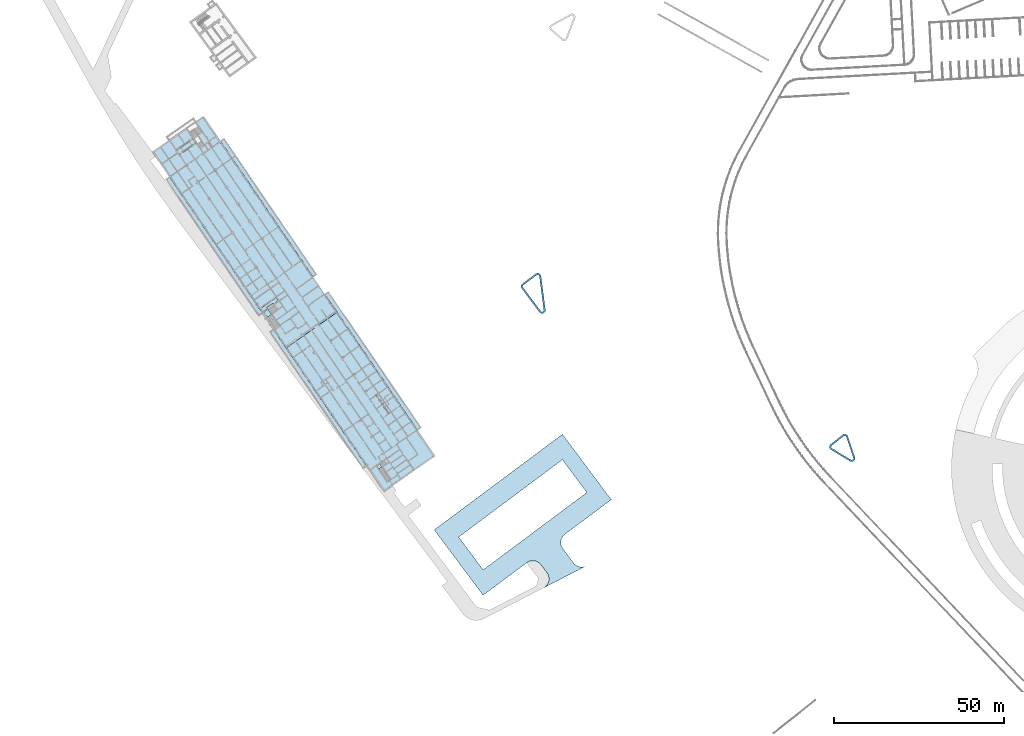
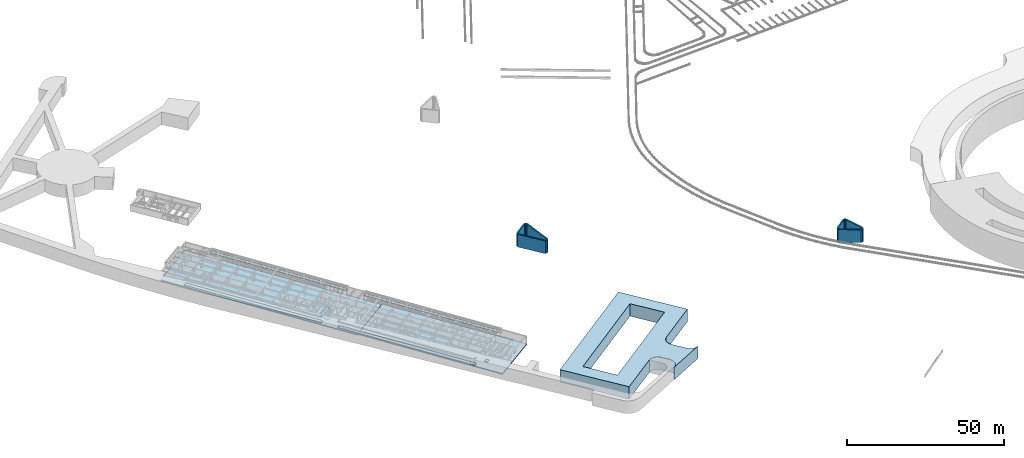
# One storey, part 10 of 112: 12 slabs, 2 elements without a shape of their own.
"""IFC2X3 building model written with IfcOpenShell, lengths in millimetres."""

from ifc_helpers import new_model, entity, si_unit, converted_unit, derived_unit, direction, frame, frame_2d, origin, place, context, subcontext, project, spatial, polyline, circle_curve, parameter, trimmed, segment, composite_curve, outline, extrude, material, layer, layer_set, layer_usage, type_object, element, aggregate, save


model = new_model("IFC2X3")

# Units and contexts
model_context = context("Model", 3, precision=0.01, world=origin(), true_north=direction((6.123031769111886e-17, 1.0)))
body_context = subcontext(model_context, "Body", "Model", "MODEL_VIEW")
ifc_project = project(units=[si_unit("LENGTHUNIT", "METRE", prefix="MILLI"), si_unit("AREAUNIT", "SQUARE_METRE"), si_unit("VOLUMEUNIT", "CUBIC_METRE"), converted_unit("PLANEANGLEUNIT", "DEGREE", entity("IfcRatioMeasure", 0.017453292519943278), si_unit("PLANEANGLEUNIT", "RADIAN"), dimensions=[0, 0, 0, 0, 0, 0, 0]), si_unit("MASSUNIT", "GRAM", prefix="KILO"), derived_unit("MASSDENSITYUNIT", [(si_unit("MASSUNIT", "GRAM", prefix="KILO"), 1), (si_unit("LENGTHUNIT", "METRE"), -3)]), derived_unit("MOMENTOFINERTIAUNIT", [(si_unit("LENGTHUNIT", "METRE"), 4)]), si_unit("TIMEUNIT", "SECOND"), si_unit("FREQUENCYUNIT", "HERTZ"), si_unit("THERMODYNAMICTEMPERATUREUNIT", "DEGREE_CELSIUS"), derived_unit("THERMALTRANSMITTANCEUNIT", [(si_unit("MASSUNIT", "GRAM", prefix="KILO"), 1), (si_unit("THERMODYNAMICTEMPERATUREUNIT", "KELVIN"), -1), (si_unit("TIMEUNIT", "SECOND"), -3)]), derived_unit("THERMALCONDUCTANCEUNIT", [(si_unit("MASSUNIT", "GRAM", prefix="KILO"), 1), (si_unit("LENGTHUNIT", "METRE"), 1), (si_unit("THERMODYNAMICTEMPERATUREUNIT", "KELVIN"), -1), (si_unit("TIMEUNIT", "SECOND"), -3)]), derived_unit("VOLUMETRICFLOWRATEUNIT", [(si_unit("LENGTHUNIT", "METRE"), 3), (si_unit("TIMEUNIT", "SECOND"), -1)]), derived_unit("MASSFLOWRATEUNIT", [(si_unit("MASSUNIT", "GRAM", prefix="KILO"), 1), (si_unit("TIMEUNIT", "SECOND"), -1)]), derived_unit("ROTATIONALFREQUENCYUNIT", [(si_unit("TIMEUNIT", "SECOND"), -1)]), si_unit("ELECTRICCURRENTUNIT", "AMPERE"), si_unit("ELECTRICVOLTAGEUNIT", "VOLT"), si_unit("POWERUNIT", "WATT"), converted_unit("FORCEUNIT", "KIP", entity("IfcRatioMeasure", 2.088543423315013e-05), si_unit("FORCEUNIT", "NEWTON"), dimensions=[1, 1, -2, 0, 0, 0, 0]), si_unit("ILLUMINANCEUNIT", "LUX"), si_unit("LUMINOUSFLUXUNIT", "LUMEN"), si_unit("LUMINOUSINTENSITYUNIT", "CANDELA"), derived_unit("USERDEFINED", [(si_unit("MASSUNIT", "GRAM", prefix="KILO"), -1), (si_unit("LENGTHUNIT", "METRE"), -2), (si_unit("TIMEUNIT", "SECOND"), 3), (si_unit("LUMINOUSFLUXUNIT", "LUMEN"), 1)]), derived_unit("USERDEFINED", [(si_unit("MASSUNIT", "GRAM", prefix="KILO"), 1), (si_unit("LENGTHUNIT", "METRE"), 3), (si_unit("TIMEUNIT", "SECOND"), -3), (si_unit("ELECTRICCURRENTUNIT", "AMPERE"), -2)]), derived_unit("USERDEFINED", [(si_unit("LENGTHUNIT", "METRE"), 2), (si_unit("TIMEUNIT", "SECOND"), -2)]), derived_unit("SOUNDPOWERUNIT", [(si_unit("MASSUNIT", "GRAM", prefix="KILO"), 1), (si_unit("LENGTHUNIT", "METRE"), 2), (si_unit("TIMEUNIT", "SECOND"), -3)]), derived_unit("SOUNDPRESSUREUNIT", [(si_unit("MASSUNIT", "GRAM", prefix="KILO"), 1), (si_unit("LENGTHUNIT", "METRE"), -1), (si_unit("TIMEUNIT", "SECOND"), -2)]), derived_unit("LINEARVELOCITYUNIT", [(si_unit("LENGTHUNIT", "METRE"), 1), (si_unit("TIMEUNIT", "SECOND"), -1)]), si_unit("PRESSUREUNIT", "PASCAL"), derived_unit("USERDEFINED", [(si_unit("LENGTHUNIT", "METRE"), -2), (si_unit("MASSUNIT", "GRAM", prefix="KILO"), 1), (si_unit("TIMEUNIT", "SECOND"), -2)]), derived_unit("LINEARFORCEUNIT", [(si_unit("MASSUNIT", "GRAM", prefix="KILO"), 1), (si_unit("LENGTHUNIT", "METRE"), 1), (si_unit("TIMEUNIT", "SECOND"), -2), (si_unit("LENGTHUNIT", "METRE"), -1)]), derived_unit("PLANARFORCEUNIT", [(si_unit("MASSUNIT", "GRAM", prefix="KILO"), 1), (si_unit("LENGTHUNIT", "METRE"), 1), (si_unit("TIMEUNIT", "SECOND"), -2), (si_unit("LENGTHUNIT", "METRE"), -2)]), derived_unit("SPECIFICHEATCAPACITYUNIT", [(si_unit("LENGTHUNIT", "METRE"), 2), (si_unit("TIMEUNIT", "SECOND"), -2), (si_unit("THERMODYNAMICTEMPERATUREUNIT", "KELVIN"), -1)]), derived_unit("VAPORPERMEABILITYUNIT", [(si_unit("TIMEUNIT", "SECOND"), 1), (si_unit("LENGTHUNIT", "METRE"), -1)]), derived_unit("DYNAMICVISCOSITYUNIT", [(si_unit("MASSUNIT", "GRAM", prefix="KILO"), 1), (si_unit("LENGTHUNIT", "METRE"), -1), (si_unit("TIMEUNIT", "SECOND"), -1)]), derived_unit("THERMALEXPANSIONCOEFFICIENTUNIT", [(si_unit("THERMODYNAMICTEMPERATUREUNIT", "KELVIN"), -1)])], contexts=[model_context])

# Site, building, storey
site_placement = place(None, frame((0.0, 0.0, 0.0), z_axis=(0.0, 0.0, 1.0), x_axis=(0.8191520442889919, 0.5735764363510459, 0.0)))
site = spatial("IfcSite", under=ifc_project, at=site_placement, Name="Default", CompositionType="ELEMENT")
building_placement = place(site_placement, origin())
building = spatial("IfcBuilding", under=site, at=building_placement, CompositionType="ELEMENT")
storey_placement = place(building_placement, frame((0.0, 0.0, -3600.0)))
storey = spatial("IfcBuildingStorey", under=building, at=storey_placement, Name="0.UG -3.60", CompositionType="ELEMENT", Elevation=-3600.0000000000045)

# Slabs
ifc_material_1 = material(Name="road_asfalt")
slab_type_1 = type_object("IfcSlabType", Name="Slab-169", PredefinedType="FLOOR", material=ifc_material_1)
slab_1_placement = place(storey_placement, origin())
element("IfcSlab", 1, at=slab_1_placement, inside=storey, type_object=slab_type_1, Name="Slab-169:Slab-169", ObjectType="Slab-169:Slab-169", PredefinedType="FLOOR", context=body_context, shape_type="SweptSolid", body=[
    extrude(outline(composite_curve([segment(polyline([(-23349.96454791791, -23085.034765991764), (650.0354520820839, -23085.034765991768)]), True, "CONTINUOUS"), segment(polyline([(650.0354520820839, -23085.034765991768), (650.0354962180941, -7085.029446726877)]), True, "CONTINUOUS"), segment(trimmed(circle_curve(frame_2d((3650.0355186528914, -7085.029455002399), x_axis=(-1.0, 7.741618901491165e-09)), 3000.000022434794), [parameter(269.9999997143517)], [parameter(2.856497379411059e-07)], True, "PARAMETER"), False, "CONTINUOUS"), segment(polyline([(3650.035556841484, -4085.029432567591), (6561.595889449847, -4085.0294696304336)]), True, "CONTINUOUS"), segment(trimmed(circle_curve(frame_2d((6561.595851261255, -7085.0294696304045), x_axis=(1.2732925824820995e-08, 1.0)), 2999.999999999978), [parameter(260.60300781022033)], [parameter(1.1704441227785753e-12)], True, "PARAMETER"), False, "CONTINUOUS"), segment(polyline([(9521.338047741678, -7574.852019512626), (11838.268116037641, 6425.1479622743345)]), True, "CONTINUOUS"), segment(trimmed(circle_curve(frame_2d((8876.919858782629, 6916.864213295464), x_axis=(0.9864932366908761, -0.163801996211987)), 3001.894130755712), [parameter(279.45830056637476)], [parameter(1.9846661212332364e-12)], True, "PARAMETER"), False, "CONTINUOUS"), segment(polyline([(8878.525885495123, 3914.970512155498), (3650.037734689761, 3914.9705715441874)]), True, "CONTINUOUS"), segment(trimmed(circle_curve(frame_2d((3650.0377687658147, 6914.975098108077), x_axis=(-7.559974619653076e-07, -1.0)), 3000.0045265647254), [parameter(270.00007599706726)], [parameter(4.266483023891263e-05)], True, "PARAMETER"), False, "CONTINUOUS"), segment(polyline([(650.0332422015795, 6914.973386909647), (650.0235454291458, 23914.97595161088)]), True, "CONTINUOUS"), segment(polyline([(650.0235454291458, 23914.97595161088), (-23349.964418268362, 23914.97151592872)]), True, "CONTINUOUS"), segment(polyline([(-23349.964418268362, 23914.97151592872), (-23349.96454791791, -23085.034765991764)]), True, "CONTINUOUS")], self_intersect=False), holes=[polyline([(-17349.97455679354, 19414.97262484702), (-5349.974556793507, 19414.97574793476), (-5349.964667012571, -18585.036327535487), (-17349.964667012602, -18585.039450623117), (-17349.97455679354, 19414.97262484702)])]), frame((-194450.25213973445, 11827.478182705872, -1400.0), z_axis=(0.0, 0.0, 1.0), x_axis=(0.029878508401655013, -0.999553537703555, 0.0)), (0.0, 0.0, 1.0), 4850.0),
])
ifc_material_2 = material(Name="_granite_06 elementi novi")
slab_type_2 = type_object("IfcSlabType", Name="Slab-180", PredefinedType="FLOOR", material=ifc_material_2)
slab_2_placement = place(storey_placement, origin())
element("IfcSlab", 2, at=slab_2_placement, inside=storey, type_object=slab_type_2, Name="Slab-180:Slab-180", ObjectType="Slab-180:Slab-180", PredefinedType="FLOOR", context=body_context, shape_type="SweptSolid", body=[
    extrude(outline(composite_curve([segment(polyline([(-2210.4617921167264, -2917.3169458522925), (2232.1375624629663, -2917.316945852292)]), True, "CONTINUOUS"), segment(trimmed(circle_curve(frame_2d((2232.137562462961, -1917.3169458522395), x_axis=(0.0, -1.0)), 1000.0000000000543), [parameter(359.99999999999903)], [parameter(110.36391893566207)], True, "PARAMETER"), True, "CONTINUOUS"), segment(polyline([(3169.6388735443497, -1569.3352053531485), (918.7818012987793, 4494.722791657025)]), True, "CONTINUOUS"), segment(trimmed(circle_curve(frame_2d((-18.7195097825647, 4146.7410511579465), x_axis=(0.9375013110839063, 0.34798174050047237)), 1000.0000000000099), [parameter(359.9999999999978)], [parameter(139.7646231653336)], True, "PARAMETER"), True, "CONTINUOUS"), segment(polyline([(-959.1770814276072, 4486.652151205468), (-3150.919363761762, -1577.4058458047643)]), True, "CONTINUOUS"), segment(trimmed(circle_curve(frame_2d((-2210.4617921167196, -1917.3169458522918), x_axis=(-0.94045757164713, 0.3399111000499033)), 999.9999999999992), [parameter(359.99999999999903)], [parameter(109.87145789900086)], True, "PARAMETER"), True, "CONTINUOUS")], self_intersect=False), holes=[composite_curve([segment(trimmed(circle_curve(frame_2d((-18.719509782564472, 4146.74105115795), x_axis=(-0.94045757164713, 0.3399111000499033)), 499.99999999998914), [parameter(220.23537683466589)], [parameter(1.8828883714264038e-12)], True, "PARAMETER"), False, "CONTINUOUS"), segment(polyline([(450.0311457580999, 4320.731921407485), (2700.8882180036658, -1743.3260756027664)]), True, "CONTINUOUS"), segment(trimmed(circle_curve(frame_2d((2232.137562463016, -1917.316945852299), x_axis=(0.9375013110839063, 0.34798174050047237)), 499.99999999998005), [parameter(249.63608106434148)], [parameter(4.2237766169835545e-12)], True, "PARAMETER"), False, "CONTINUOUS"), segment(polyline([(2232.137562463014, -2417.316945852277), (-2210.4617921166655, -2417.316945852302)]), True, "CONTINUOUS"), segment(trimmed(circle_curve(frame_2d((-2210.461792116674, -1917.316945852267), x_axis=(0.0, -1.0)), 500.00000000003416), [parameter(250.1285421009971)], [parameter(359.999999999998)], True, "PARAMETER"), False, "CONTINUOUS"), segment(polyline([(-2680.690577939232, -1747.3613958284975), (-488.94829560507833, 4316.696601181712)]), True, "CONTINUOUS")], self_intersect=False)]), frame((-105953.00500466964, -14512.05469941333, -2100.0), z_axis=(0.0, 0.0, 1.0), x_axis=(-0.9981938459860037, -0.06007533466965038, 0.0)), (0.0, 0.0, 1.0), 4949.999999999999),
])
slab_type_3 = type_object("IfcSlabType", Name="Slab-180", PredefinedType="FLOOR", material=ifc_material_2)
slab_3_placement = place(storey_placement, origin())
element("IfcSlab", 3, at=slab_3_placement, inside=storey, type_object=slab_type_3, Name="Slab-180 237997:Slab-180 237997", ObjectType="Slab-180 237997:Slab-180 237997", PredefinedType="FLOOR", context=body_context, shape_type="SweptSolid", body=[
    extrude(outline(composite_curve([segment(polyline([(-2723.695075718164, -2578.5108920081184), (5958.715789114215, -2578.5108920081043)]), True, "CONTINUOUS"), segment(trimmed(circle_curve(frame_2d((5958.7157891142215, -1578.5108920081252), x_axis=(0.0, -1.0)), 999.9999999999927), [parameter(359.99999999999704)], [parameter(150.7465714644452)], True, "PARAMETER"), True, "CONTINUOUS"), segment(polyline([(6447.389239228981, -706.0441252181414), (-2235.020713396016, 4157.021596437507)]), True, "CONTINUOUS"), segment(trimmed(circle_curve(frame_2d((-2723.694163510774, 3284.554829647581), x_axis=(0.488673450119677, 0.8724667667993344)), 999.9999999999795), [parameter(2.239110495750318e-12)], [parameter(119.253417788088)], True, "PARAMETER"), True, "CONTINUOUS"), segment(polyline([(-3723.6941635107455, 3284.5550172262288), (-3723.6950757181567, -1578.5107044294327)]), True, "CONTINUOUS"), segment(trimmed(circle_curve(frame_2d((-2723.695075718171, -1578.5108920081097), x_axis=(-1.0, 1.8760329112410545e-07)), 1000.0000000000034), [parameter(359.99999999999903)], [parameter(90.00001074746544)], True, "PARAMETER"), True, "CONTINUOUS")], self_intersect=False), holes=[composite_curve([segment(trimmed(circle_curve(frame_2d((-2723.694163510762, 3284.554829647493), x_axis=(-1.0, 1.8760329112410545e-07)), 499.9999999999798), [parameter(240.74658221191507)], [parameter(0.0)], True, "PARAMETER"), False, "CONTINUOUS"), segment(polyline([(-2479.35743845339, 3720.788213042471), (6203.052514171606, -1142.2775086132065)]), True, "CONTINUOUS"), segment(trimmed(circle_curve(frame_2d((5958.7157891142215, -1578.5108920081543), x_axis=(0.488673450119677, 0.8724667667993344)), 499.9999999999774), [parameter(209.25342853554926)], [parameter(359.9999999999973)], True, "PARAMETER"), False, "CONTINUOUS"), segment(polyline([(5958.715789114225, -2078.5108920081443), (-2723.695075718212, -2078.5108920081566)]), True, "CONTINUOUS"), segment(trimmed(circle_curve(frame_2d((-2723.695075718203, -1578.5108920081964), x_axis=(0.0, -1.0)), 499.9999999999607), [parameter(269.99998925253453)], [parameter(9.6688862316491e-13)], True, "PARAMETER"), False, "CONTINUOUS"), segment(polyline([(-3223.6950757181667, -1578.5107982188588), (-3223.6941635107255, 3284.554923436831)]), True, "CONTINUOUS")], self_intersect=False)]), frame((-153831.98890081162, 75195.65239012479, -900.0), z_axis=(0.0, 0.0, 1.0), x_axis=(0.029878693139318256, -0.9995535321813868, 0.0)), (0.0, 0.0, 1.0), 4950.0),
])
ifc_material_3 = material(Name="Analytical Floor Surface_CJC")
ifc_layer_1 = layer(ifc_material_3, 150.0)
ifc_layer_set_1 = layer_set([ifc_layer_1], Name="Floor:Boden_CJC")
ifc_layer_usage_1 = layer_usage(ifc_layer_set_1, "AXIS3", "POSITIVE", 0.0)
slab_type_4 = type_object("IfcSlabType", Name="Floor:Boden_CJC", PredefinedType="FLOOR", material=ifc_layer_set_1)
slab_4_placement = place(storey_placement, origin())
element("IfcSlab", 4, at=slab_4_placement, inside=storey, type_object=slab_type_4, material=ifc_layer_usage_1, Name="Floor:Boden_CJC", ObjectType="Floor:Boden_CJC", PredefinedType="FLOOR", context=body_context, shape_type="SweptSolid", body=[
    extrude(outline(polyline([(-2427.63856077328, -308.3129468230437), (-1032.6173649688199, -308.3129468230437), (-1032.6173649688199, 91.68705317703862), (1067.5528002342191, 91.6870531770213), (1067.5528002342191, -308.3129468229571), (2474.6802389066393, -308.3129468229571), (2474.6802389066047, -283.3129468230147), (2772.4152267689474, -283.3129468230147), (2757.776571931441, 866.5647341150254), (-2847.073012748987, 866.5647341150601), (-2847.0730127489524, -58.31294682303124), (-2427.6385607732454, -58.312946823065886), (-2427.63856077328, -308.3129468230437)])), frame((-219973.55526353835, 116154.67186117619, 2900.0), z_axis=(0.0, 0.0, -1.0), x_axis=(-1.0, 0.0, 0.0)), (0.0, 0.0, 1.0), 150.0),
])

# Stair, slab
stair_1_placement = place(storey_placement, origin())
stair_1 = element("IfcStair", 5, at=stair_1_placement, inside=storey, Name="Precast Stair:Stair", ObjectType="Precast Stair:Stair_CJC_KH", ShapeType="NOTDEFINED")
ifc_material_4 = material(Name="Concrete, Cast-in-Place gray")
slab_type_5 = type_object("IfcSlabType", Name="Monolithic Landing:200mm_Thickness", PredefinedType="LANDING")
slab_5_placement = place(stair_1_placement, origin())
slab_5 = element("IfcSlab", 6, at=slab_5_placement, type_object=slab_type_5, material=ifc_material_4, Name="Precast Stair:Stair:623219 Landing 1", ObjectType="Monolithic Landing:200mm_Thickness", PredefinedType="LANDING", context=body_context, shape_type="SweptSolid", body=[
    extrude(outline(polyline([(-938.8036607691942, -760.2986604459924), (641.1963392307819, -760.2986604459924), (629.7447302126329, -538.8296813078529), (606.6662520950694, 1041.001760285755), (-938.8036607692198, 1018.4252419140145), (-938.8036607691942, -760.2986604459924)])), frame((-221667.20567746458, 114504.32956129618, 2249.0), z_axis=(0.0, 0.0, 1.0), x_axis=(0.9998933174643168, -0.014606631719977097, 0.0)), (0.0, 0.0, 1.0), 1.0000000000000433),
    extrude(outline(polyline([(-792.394732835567, 601.080182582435), (-710.8058680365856, -976.8118470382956), (1065.5449347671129, -884.9611736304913), (1008.2855503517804, 659.6126555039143), (-570.6298842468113, 601.0801825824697), (-792.394732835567, 601.080182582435)])), frame((-221667.20567746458, 114504.32956129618, 2049.0), z_axis=(0.0, 0.0, -1.0), x_axis=(-0.03704586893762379, 0.9993135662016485, 0.0)), (0.0, 0.0, -1.0), 199.99999999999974),
])
aggregate(stair_1, [slab_5])

stair_2_placement = place(storey_placement, origin())
stair_2 = element("IfcStair", 7, at=stair_2_placement, inside=storey, Name="Precast Stair:Stair", ObjectType="Precast Stair:Stair_CJC_KH", ShapeType="NOTDEFINED")
slab_6_placement = place(stair_2_placement, origin())
slab_6 = element("IfcSlab", 8, at=slab_6_placement, type_object=slab_type_5, material=ifc_material_4, Name="Precast Stair:Stair:623226 Landing 1", ObjectType="Monolithic Landing:200mm_Thickness", PredefinedType="LANDING", context=body_context, shape_type="SweptSolid", body=[
    extrude(outline(polyline([(-553.6976870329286, -546.4978271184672), (546.7066744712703, -546.4978271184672), (546.6965112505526, 539.5876259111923), (-539.7054986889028, 553.4080283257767), (-553.6976870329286, -546.4978271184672)])), frame((-220748.00705953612, 59024.65735384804, 1399.0), z_axis=(0.0, 0.0, 1.0), x_axis=(9.357662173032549e-06, 1.0, 0.0)), (0.0, 0.0, 1.0), 1.0000000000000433),
    extrude(outline(polyline([(-546.5029429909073, -546.7015605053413), (539.5825100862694, -546.7015605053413), (553.4130786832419, 539.7003200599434), (-546.4926457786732, 553.7028009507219), (-546.5029429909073, -546.7015605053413)])), frame((-220748.00705953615, 59024.65735384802, 1199.0), z_axis=(0.0, 0.0, 1.0), x_axis=(-1.0, 0.0, 0.0)), (0.0, 0.0, 1.0), 199.99999999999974),
])
aggregate(stair_2, [slab_6])

# Slabs
ifc_layer_2 = layer(ifc_material_3, 100.0)
ifc_layer_set_2 = layer_set([ifc_layer_2], Name="Floor:Boden_Rampe_CJC")
ifc_layer_usage_2 = layer_usage(ifc_layer_set_2, "AXIS3", "POSITIVE", 0.0)
slab_type_6 = type_object("IfcSlabType", Name="Floor:Boden_Rampe_CJC", PredefinedType="FLOOR", material=ifc_layer_set_2)
slab_7_placement = place(storey_placement, frame((-225091.2574608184, 61271.35891435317, 1500.0)))
element("IfcSlab", 9, at=slab_7_placement, inside=storey, type_object=slab_type_6, material=ifc_layer_usage_2, Name="Floor:Boden_Rampe_CJC", ObjectType="Floor:Boden_Rampe_CJC", PredefinedType="FLOOR", context=body_context, shape_type="SweptSolid", body=[
    extrude(outline(polyline([(9830.336909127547, -56525.0), (11130.503712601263, -56525.0), (10512.113886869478, -7950.0), (9419.760516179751, -7950.0), (9419.760516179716, -8275.0), (9216.084534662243, -8275.0), (9830.336909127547, -56525.0)])), frame((11130.503712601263, 56525.0, 100.0), z_axis=(0.0, 0.0, -1.0), x_axis=(-1.0, 0.0, 0.0)), (0.0, 0.0, 1.0), 100.0),
])
slab_8_placement = place(storey_placement, frame((-225091.2574608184, 61271.35891435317, 1500.0)))
element("IfcSlab", 10, at=slab_8_placement, inside=storey, type_object=slab_type_6, material=ifc_layer_usage_2, Name="Floor:Boden_Rampe_CJC:2", ObjectType="Floor:Boden_Rampe_CJC", PredefinedType="FLOOR", context=body_context, shape_type="SweptSolid", body=[
    extrude(outline(polyline([(9329.760516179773, -2250.0), (10439.549357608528, -2250.0), (9821.280234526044, 46315.51871648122), (8521.646976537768, 46315.51871648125), (9135.245102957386, -1925.0), (9329.760516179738, -1925.0), (9329.760516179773, -2250.0)])), frame((11130.503712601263, 56525.0, 100.0), z_axis=(0.0, 0.0, -1.0), x_axis=(-1.0, 0.0, 0.0)), (0.0, 0.0, 1.0), 100.0),
])
slab_9_placement = place(storey_placement, frame((-225091.2574608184, 61271.35891435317, 1500.0)))
element("IfcSlab", 11, at=slab_9_placement, inside=storey, type_object=slab_type_6, material=ifc_layer_usage_2, Name="Floor:Boden_Rampe_CJC:3", ObjectType="Floor:Boden_Rampe_CJC", PredefinedType="FLOOR", context=body_context, shape_type="SweptSolid", body=[
    extrude(outline(polyline([(-9821.086167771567, -56525.0), (-8520.980551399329, -56525.0), (-9137.250238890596, -8125.0), (-10437.355855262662, -8125.0), (-9821.086167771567, -56525.0)])), frame((11130.503712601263, 56525.0, 100.0), z_axis=(0.0, 0.0, -1.0), x_axis=(-1.0, 0.0, 0.0)), (0.0, 0.0, 1.0), 100.0),
])
slab_10_placement = place(storey_placement, frame((-225091.2574608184, 61271.35891435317, 1500.0)))
element("IfcSlab", 12, at=slab_10_placement, inside=storey, type_object=slab_type_6, material=ifc_layer_usage_2, Name="Floor:Boden_Rampe_CJC:4", ObjectType="Floor:Boden_Rampe_CJC", PredefinedType="FLOOR", context=body_context, shape_type="SweptSolid", body=[
    extrude(outline(polyline([(-10514.389566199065, -2075.0), (-9214.16497359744, -2075.0), (-9830.384727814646, 46321.07838821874), (-11130.503712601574, 46321.0783882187), (-10514.389566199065, -2075.0)])), frame((11130.503712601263, 56525.0, 100.0), z_axis=(0.0, 0.0, -1.0), x_axis=(-1.0, 0.0, 0.0)), (0.0, 0.0, 1.0), 100.0),
])
ifc_layer_3 = layer(ifc_material_3, 400.0)
ifc_layer_set_3 = layer_set([ifc_layer_3], Name="Floor:Boden_UG_CJC")
ifc_layer_usage_3 = layer_usage(ifc_layer_set_3, "AXIS3", "POSITIVE", 0.0)
slab_type_7 = type_object("IfcSlabType", Name="Floor:Boden_UG_CJC", PredefinedType="FLOOR", material=ifc_layer_set_3)
slab_11_placement = place(storey_placement, origin())
element("IfcSlab", 13, at=slab_11_placement, inside=storey, type_object=slab_type_7, material=ifc_layer_usage_3, Name="Floor:Boden_UG_CJC", ObjectType="Floor:Boden_UG_CJC", PredefinedType="FLOOR", context=body_context, shape_type="SweptSolid", body=[
    extrude(outline(polyline([(-8259.549212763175, -2064.3293084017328), (-7909.549212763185, -2064.3293084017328), (-7909.5492127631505, -1856.1976101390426), (-6335.67618085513, -1836.161231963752), (-6335.67618085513, -2034.3293084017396), (-6035.676180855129, -2034.329308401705), (-6035.676180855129, -1832.3420462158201), (-4135.676180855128, -1808.1538698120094), (-4135.6761808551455, -2004.3293084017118), (-3835.676180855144, -2004.3293084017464), (-3835.676180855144, -1804.3346840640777), (-2259.5492127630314, -1784.2696118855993), (-2259.549212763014, -1974.3293084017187), (-1909.5492127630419, -1974.3293084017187), (-1909.5492127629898, -1779.813895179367), (55240.450787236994, -1052.3204732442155), (55240.45078723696, 17299.168728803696), (-14559.549212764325, 16410.568715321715), (-14559.549212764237, -1940.8562275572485), (-8259.549212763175, -1860.653326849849), (-8259.549212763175, -2064.3293084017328)])), frame((-221316.18495599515, 117780.90812711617, 0.0), z_axis=(0.0, 0.0, -1.0), x_axis=(0.0, 1.0, 0.0)), (0.0, 0.0, 1.0), 400.0),
])
slab_12_placement = place(storey_placement, origin())
element("IfcSlab", 14, at=slab_12_placement, inside=storey, type_object=slab_type_7, material=ifc_layer_usage_3, Name="Floor:Boden_UG_CJC", ObjectType="Floor:Boden_UG_CJC", PredefinedType="FLOOR", context=body_context, shape_type="SweptSolid", body=[
    extrude(outline(polyline([(-8850.125197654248, -25575.0), (9501.29747936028, -25575.0), (8850.126309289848, 25575.0), (-9501.29859099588, 25575.0), (-8850.125197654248, -25575.0)])), frame((-214406.9148742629, 77646.35891435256, 300.0), z_axis=(0.0, 0.0, -1.0), x_axis=(-1.0, 0.0, 0.0)), (0.0, 0.0, 1.0), 400.0),
])

save(model, "model.ifc")
